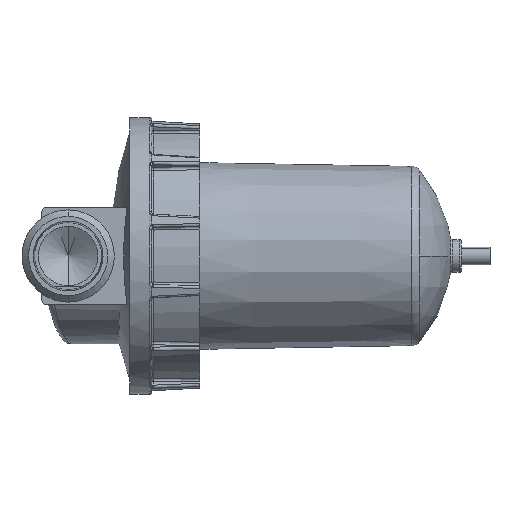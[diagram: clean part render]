
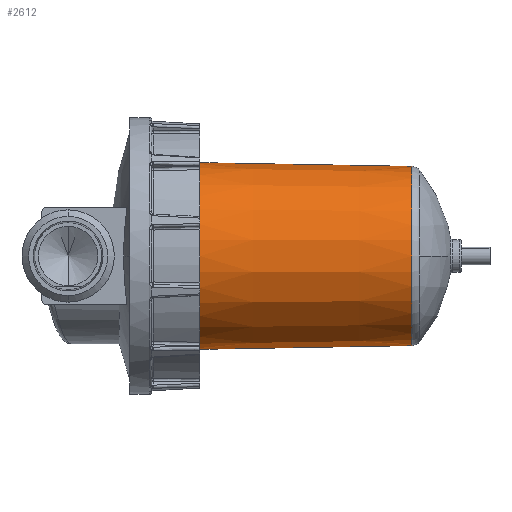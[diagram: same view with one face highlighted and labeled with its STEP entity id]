
A CAD part, left-side view. The second image highlights one B-rep face of the part: STEP entity #2612.
In plain terms, the highlighted conical face has half-angle 1 degrees and reference radius 40.75 mm.
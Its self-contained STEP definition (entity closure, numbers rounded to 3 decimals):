
#106 = VECTOR ( 'NONE', #9530, 1000. ) ;
#166 = VERTEX_POINT ( 'NONE', #6673 ) ;
#457 = ORIENTED_EDGE ( 'NONE', *, *, #1911, .F. ) ;
#969 = DIRECTION ( 'NONE',  ( 0., 0., 1. ) ) ;
#1472 = CARTESIAN_POINT ( 'NONE',  ( 0., 98.5, -42.469 ) ) ;
#1676 = CARTESIAN_POINT ( 'NONE',  ( 0., 98.5, 0. ) ) ;
#1679 = DIRECTION ( 'NONE',  ( 0., 1., 0. ) ) ;
#1911 = EDGE_CURVE ( 'NONE', #8335, #4189, #7845, .T. ) ;
#1922 = EDGE_CURVE ( 'NONE', #166, #4189, #3485, .T. ) ;
#2612 = ADVANCED_FACE ( 'NONE', ( #2854 ), #8900, .T. ) ;
#2854 = FACE_OUTER_BOUND ( 'NONE', #10669, .T. ) ;
#3192 = ORIENTED_EDGE ( 'NONE', *, *, #6425, .F. ) ;
#3477 = DIRECTION ( 'NONE',  ( 0., 1., 0. ) ) ;
#3485 = LINE ( 'NONE', #11342, #11475 ) ;
#3595 = VERTEX_POINT ( 'NONE', #10561 ) ;
#4189 = VERTEX_POINT ( 'NONE', #11159 ) ;
#4239 = DIRECTION ( 'NONE',  ( 0., 0., -1. ) ) ;
#5201 = EDGE_CURVE ( 'NONE', #3595, #166, #11845, .T. ) ;
#5321 = AXIS2_PLACEMENT_3D ( 'NONE', #1676, #3477, #969 ) ;
#6425 = EDGE_CURVE ( 'NONE', #3595, #8335, #7918, .T. ) ;
#6673 = CARTESIAN_POINT ( 'NONE',  ( 0., 2.184, 40.788 ) ) ;
#6869 = AXIS2_PLACEMENT_3D ( 'NONE', #7731, #1679, #4239 ) ;
#6976 = AXIS2_PLACEMENT_3D ( 'NONE', #7790, #9396, #7340 ) ;
#7068 = DIRECTION ( 'NONE',  ( 0., 1., 0.017 ) ) ;
#7340 = DIRECTION ( 'NONE',  ( 0., 0., 1. ) ) ;
#7694 = ORIENTED_EDGE ( 'NONE', *, *, #5201, .T. ) ;
#7731 = CARTESIAN_POINT ( 'NONE',  ( 0., 2.184, 0. ) ) ;
#7790 = CARTESIAN_POINT ( 'NONE',  ( 0., 0., 0. ) ) ;
#7845 = CIRCLE ( 'NONE', #5321, 42.469 ) ;
#7918 = LINE ( 'NONE', #8378, #106 ) ;
#8335 = VERTEX_POINT ( 'NONE', #1472 ) ;
#8378 = CARTESIAN_POINT ( 'NONE',  ( 0., 0., -40.75 ) ) ;
#8900 = CONICAL_SURFACE ( 'NONE', #6976, 40.75, 0.017 ) ;
#8930 = ORIENTED_EDGE ( 'NONE', *, *, #1922, .T. ) ;
#9396 = DIRECTION ( 'NONE',  ( 0., 1., 0. ) ) ;
#9530 = DIRECTION ( 'NONE',  ( 0., 1., -0.017 ) ) ;
#10561 = CARTESIAN_POINT ( 'NONE',  ( 0., 2.184, -40.788 ) ) ;
#10669 = EDGE_LOOP ( 'NONE', ( #3192, #7694, #8930, #457 ) ) ;
#11159 = CARTESIAN_POINT ( 'NONE',  ( 0., 98.5, 42.469 ) ) ;
#11342 = CARTESIAN_POINT ( 'NONE',  ( 0., 0., 40.75 ) ) ;
#11475 = VECTOR ( 'NONE', #7068, 1000. ) ;
#11845 = CIRCLE ( 'NONE', #6869, 40.788 ) ;
